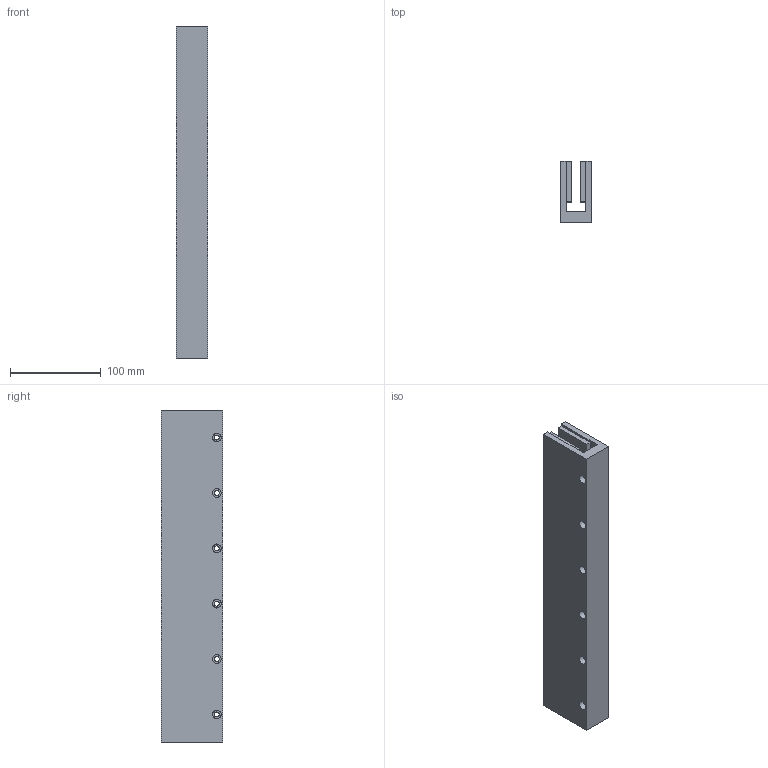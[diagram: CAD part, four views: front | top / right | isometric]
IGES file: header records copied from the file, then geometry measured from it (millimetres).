
Global section: file name: No Iges File Name specified; native system: Autodesk Inventor 2012; preprocessor: AutoDesk Inventor Iges Exporter R2012; author: je17857; date: 20120511.155630; units: inch
Bounding box: 34.29 x 67.31 x 365.51 mm (x, y, z)
Volume: 543589.4 mm3; surface area: 140009 mm2
Topology: 1 solids, 1 shells, 160 faces, 366 edges, 244 vertices
Faces by surface type: plane 142, revolution 18
